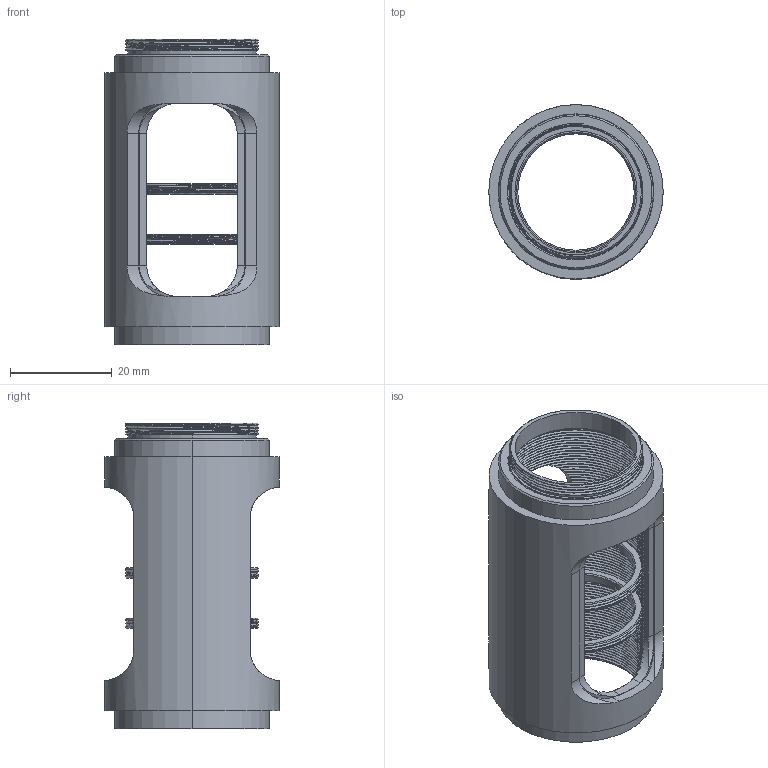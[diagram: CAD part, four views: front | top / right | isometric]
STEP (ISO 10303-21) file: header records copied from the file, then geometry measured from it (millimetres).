
FILE_DESCRIPTION((''),'2;1');
FILE_NAME('CSA-50CL1_ASM','2021-03-09T',('Administrator'),(''),'CREO PARAMETRIC BY PTC INC, 2015290','CREO PARAMETRIC BY PTC INC, 2015290','');
FILE_SCHEMA(('CONFIG_CONTROL_DESIGN'));
Products named in the file (4): CSK3; CSA-50CL1_A2; CSA-50CL1_A1; CSA-50CL1_ASM
Assembly tree (4 placements, depth 2):
  CSA-50CL1_ASM
    CSK3  x2
    CSA-50CL1_A2
    CSA-50CL1_A1
Bounding box: 34.29 x 34.29 x 60.16 mm (x, y, z)
Volume: 13455 mm3; surface area: 19555.5 mm2
Topology: 4 solids, 4 shells, 643 faces, 1819 edges, 1192 vertices
Faces by surface type: bspline 299, cylinder 250, plane 66, cone 28
Entity records: 102092 total; most frequent: CARTESIAN_POINT 89438, ORIENTED_EDGE 3446, EDGE_CURVE 1723, DIRECTION 1241, B_SPLINE_CURVE_WITH_KNOTS 1230, VERTEX_POINT 1132, EDGE_LOOP 631, FACE_OUTER_BOUND 606
